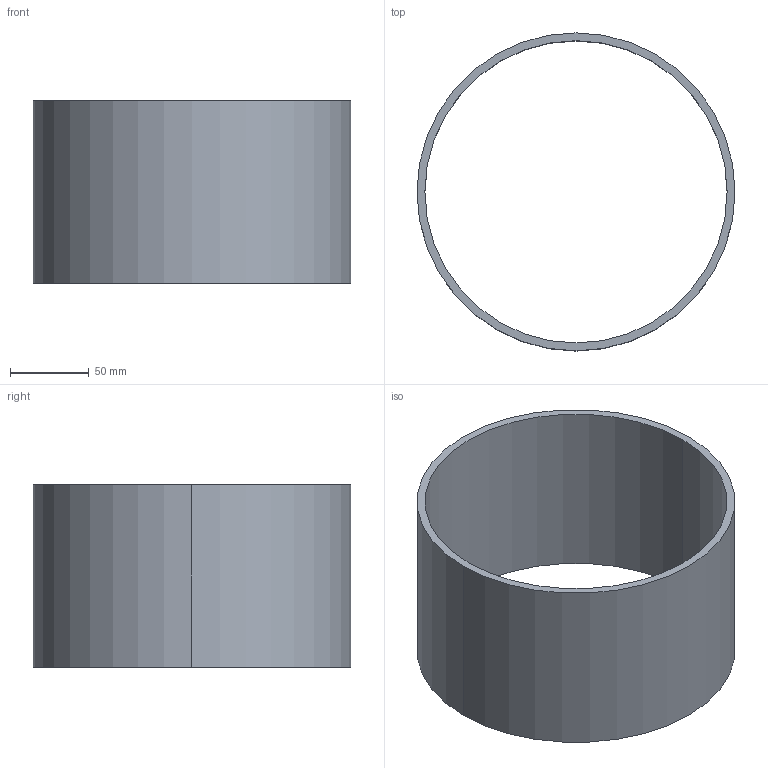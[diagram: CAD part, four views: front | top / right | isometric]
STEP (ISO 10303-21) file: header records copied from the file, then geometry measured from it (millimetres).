
FILE_DESCRIPTION(('CATIA V5 STEP Exchange'),'2;1');
FILE_NAME('C:\_Andres\UNIVERSIDAD\IQS\ASIGNATURAS\DAO\EXF\EXF-15161c\1original\Aloguín_Serramia_Ej07-tabla_v1.stp','2016-03-04T21:16:33+00:00',('none'),('none'),'CATIA Version 5 Release 20 SP 1 (IN-10)','CATIA V5 STEP AP203','none');
FILE_SCHEMA(('CONFIG_CONTROL_DESIGN'));
Length unit declared in the file: millimetre
Products named in the file (1): Aloguín_Serramia_Ej07-tabla_v1
Bounding box: 202 x 202 x 116 mm (x, y, z)
Volume: 358958.4 mm3; surface area: 149772.3 mm2
Topology: 1 solids, 1 shells, 6 faces, 13 edges, 10 vertices
Faces by surface type: cylinder 4, plane 2
Entity records: 208 total; most frequent: CARTESIAN_POINT 29, ORIENTED_EDGE 24, DIRECTION 23, AXIS2_PLACEMENT_3D 14, EDGE_CURVE 12, CIRCLE 8, EDGE_LOOP 8, VERTEX_POINT 8
